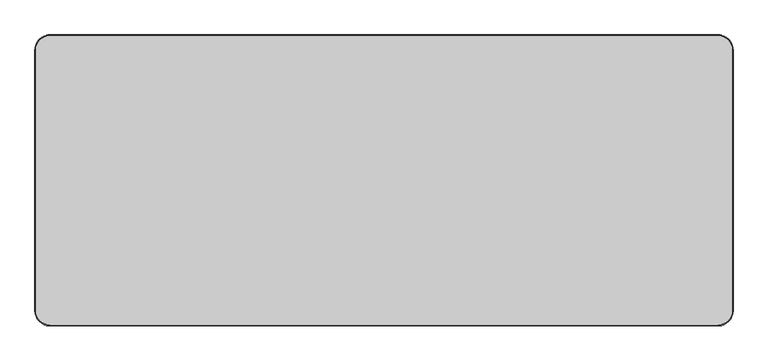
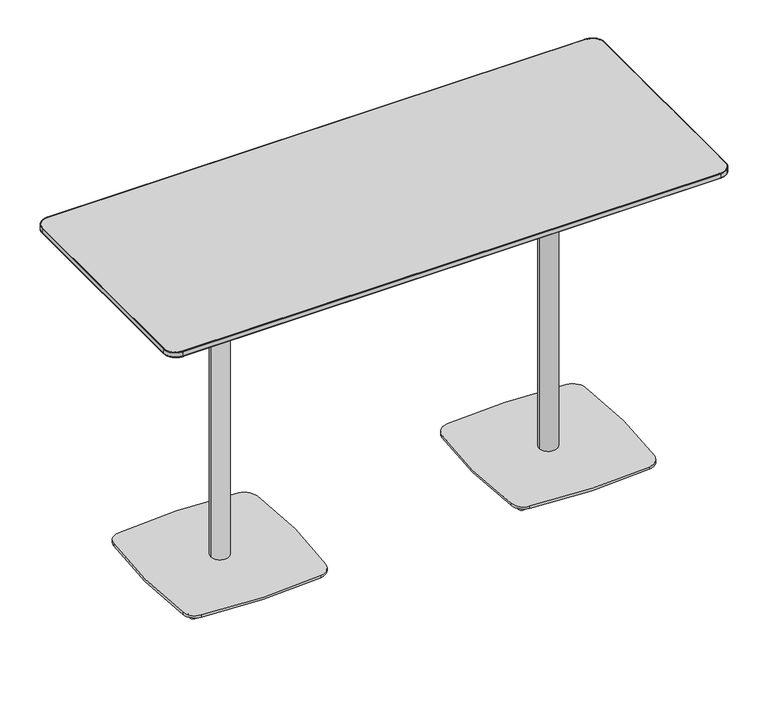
"""IFC4 building model written with IfcOpenShell, lengths in millimetres: furniture geometry, Coalesse_AM_Table_Occasional_Montara650Table_CafeHeight_Rectangular : Bar Height - 30D x 72W."""

from ifc_helpers import new_model, si_unit, point, frame, frame_2d, origin, place, context, project, spatial, polyline, circle_curve, ellipse_curve, trimmed, segment, composite_curve, outline, extrude, source, transform, mapped, element, save
from ifc_brep_helpers import plane_surface, cylinder_surface, revolved_surface, spline_surface, advanced_brep


def furniture_0e636609(model_context):
    return source(origin(), model_context, "Body", "SolidModel", [
        advanced_brep(
        [(357.2373868, 0.0, 1033.655027), (709.5626132, 0.0, 1033.655027), (665.0004101, 0.0, 1033.655027), (401.7995899, 0.0, 1033.655027), (654.4488662, 0.0, 1032.5460151), (412.3511338, 0.0, 1032.5460151), (582.1461809, 0.0, 1017.8837029), (484.6538191, 0.0, 1017.8837029), (570.812985, 0.0, 1017.8837029), (495.987015, 0.0, 1017.8837029), (503.8504172, 0.0, 1029.6852036), (562.9495828, 0.0, 1029.6852036), (562.9495828, 0.0, 19.9999965), (503.8504172, 0.0, 19.9999965), (533.4, 0.0, 19.9999965), (533.4, 0.0, 1036.830027), (709.5626132, 0.0, 1036.830027), (357.2373868, 0.0, 1036.830027), (566.7511087, 0.0, 1019.3383874), (500.0488913, 0.0, 1019.3383874), (565.112334, 0.0, 1029.6852036), (501.687666, 0.0, 1029.6852036)],
        [
            (0, 1, circle_curve(frame((533.4, 0.0, 1033.655027), z_axis=(0.0, 0.0, -1.0), x_axis=(1.0, 0.0, 0.0)), 176.1626132)),
            (1, 2),
            (2, 3, circle_curve(frame((533.4, 0.0, 1033.655027), z_axis=(0.0, 0.0, 1.0), x_axis=(1.0, 0.0, 0.0)), 131.6004101)),
            (3, 0),
            (1, 0, circle_curve(frame((533.4, 0.0, 1033.655027), z_axis=(0.0, 0.0, -1.0), x_axis=(1.0, 0.0, 0.0)), 176.1626132)),
            (3, 2, circle_curve(frame((533.4, 0.0, 1033.655027), z_axis=(0.0, 0.0, 1.0), x_axis=(1.0, 0.0, 0.0)), 131.6004101)),
            (2, 4),
            (4, 5, circle_curve(frame((533.4, 0.0, 1032.5460151), z_axis=(0.0, 0.0, 1.0), x_axis=(1.0, 0.0, 0.0)), 121.0488662)),
            (5, 3),
            (5, 4, circle_curve(frame((533.4, 0.0, 1032.5460151), z_axis=(0.0, 0.0, 1.0), x_axis=(1.0, 0.0, 0.0)), 121.0488662)),
            (4, 6),
            (6, 7, circle_curve(frame((533.4, 0.0, 1017.8837029), z_axis=(0.0, 0.0, 1.0), x_axis=(1.0, 0.0, 0.0)), 48.7461809)),
            (7, 5),
            (7, 6, circle_curve(frame((533.4, 0.0, 1017.8837029), z_axis=(0.0, 0.0, 1.0), x_axis=(1.0, 0.0, 0.0)), 48.7461809)),
            (6, 8),
            (8, 9, circle_curve(frame((533.4, 0.0, 1017.8837029), z_axis=(0.0, 0.0, 1.0), x_axis=(1.0, 0.0, 0.0)), 37.412985)),
            (9, 7),
            (9, 8, circle_curve(frame((533.4, 0.0, 1017.8837029), z_axis=(0.0, 0.0, 1.0), x_axis=(1.0, 0.0, 0.0)), 37.412985)),
            (10, 11, circle_curve(frame((533.4, 0.0, 1029.6852036), z_axis=(0.0, 0.0, -1.0), x_axis=(1.0, 0.0, 0.0)), 29.5495828)),
            (11, 12),
            (12, 13, circle_curve(frame((533.4, 0.0, 19.9999965), z_axis=(0.0, 0.0, 1.0), x_axis=(1.0, 0.0, 0.0)), 29.5495828)),
            (13, 10),
            (11, 10, circle_curve(frame((533.4, 0.0, 1029.6852036), z_axis=(0.0, 0.0, -1.0), x_axis=(1.0, 0.0, 0.0)), 29.5495828)),
            (13, 12, circle_curve(frame((533.4, 0.0, 19.9999965), z_axis=(0.0, 0.0, 1.0), x_axis=(1.0, 0.0, 0.0)), 29.5495828)),
            (12, 14),
            (14, 13),
            (15, 16),
            (16, 17, circle_curve(frame((533.4, 0.0, 1036.830027), z_axis=(0.0, 0.0, 1.0), x_axis=(1.0, 0.0, 0.0)), 176.1626132)),
            (17, 15),
            (17, 16, circle_curve(frame((533.4, 0.0, 1036.830027), z_axis=(0.0, 0.0, 1.0), x_axis=(1.0, 0.0, 0.0)), 176.1626132)),
            (16, 1),
            (0, 17),
            (8, 18),
            (18, 19, circle_curve(frame((533.4, 0.0, 1019.3383874), z_axis=(0.0, 0.0, 1.0), x_axis=(1.0, 0.0, 0.0)), 33.3511087)),
            (19, 9),
            (19, 18, circle_curve(frame((533.4, 0.0, 1019.3383874), z_axis=(0.0, 0.0, 1.0), x_axis=(1.0, 0.0, 0.0)), 33.3511087)),
            (18, 20),
            (20, 21, circle_curve(frame((533.4, 0.0, 1029.6852036), z_axis=(0.0, 0.0, 1.0), x_axis=(1.0, 0.0, 0.0)), 31.712334)),
            (21, 19),
            (21, 20, circle_curve(frame((533.4, 0.0, 1029.6852036), z_axis=(0.0, 0.0, 1.0), x_axis=(1.0, 0.0, 0.0)), 31.712334)),
            (20, 11),
            (10, 21),
        ],
        [
            plane_surface(frame((533.4, 0.0, 1033.655027), z_axis=(0.0, 0.0, -1.0), x_axis=(1.0, 0.0, 0.0))),
            revolved_surface(polyline([(654.4488662, 0.0, 1032.5460151), (665.0004101, 0.0, 1033.655027)]), (533.4, 0.0, 908.9999965), (0.0, 0.0, 1.0)),
            revolved_surface(polyline([(582.1461809, 0.0, 1017.8837029), (654.4488662, 0.0, 1032.5460151)]), (533.4, 0.0, 908.9999965), (0.0, 0.0, 1.0)),
            plane_surface(frame((533.4, 0.0, 1017.8837029), z_axis=(0.0, 0.0, -1.0), x_axis=(1.0, 0.0, 0.0))),
            cylinder_surface(frame((533.4, 0.0, 908.9999965), z_axis=(0.0, 0.0, 1.0), x_axis=(1.0, 0.0, 0.0)), 29.5495828),
            plane_surface(frame((533.4, 0.0, 19.9999965), z_axis=(0.0, 0.0, -1.0), x_axis=(1.0, 0.0, 0.0))),
            plane_surface(frame((533.4, 0.0, 1036.830027), z_axis=(0.0, 0.0, 1.0), x_axis=(1.0, 0.0, 0.0))),
            cylinder_surface(frame((533.4, 0.0, 908.9999965), z_axis=(0.0, 0.0, 1.0), x_axis=(1.0, 0.0, 0.0)), 176.1626132),
            revolved_surface(polyline([(566.7511087, 0.0, 1019.3383874), (570.812985, 0.0, 1017.8837029)]), (533.4, 0.0, 908.9999965), (0.0, 0.0, 1.0)),
            revolved_surface(polyline([(565.112334, 0.0, 1029.6852036), (566.7511087, 0.0, 1019.3383874)]), (533.4, 0.0, 908.9999965), (0.0, 0.0, 1.0)),
            plane_surface(frame((533.4, 0.0, 1029.6852036), z_axis=(0.0, 0.0, -1.0), x_axis=(1.0, 0.0, 0.0))),
        ],
        [
            (0, [[1, 2, 3, 4]]),
            (0, [[5, -4, 6, -2]]),
            (1, [[-3, 7, 8, 9]]),
            (1, [[-6, -9, 10, -7]]),
            (2, [[-8, 11, 12, 13]]),
            (2, [[-10, -13, 14, -11]]),
            (3, [[-12, 15, 16, 17]]),
            (3, [[-14, -17, 18, -15]]),
            (4, [[19, 20, 21, 22]]),
            (4, [[23, -22, 24, -20]]),
            (5, [[-21, 25, 26]]),
            (5, [[-24, -26, -25]]),
            (6, [[27, 28, 29]]),
            (6, [[-29, 30, -27]]),
            (7, [[-28, 31, -1, 32]]),
            (7, [[-30, -32, -5, -31]]),
            (8, [[-16, 33, 34, 35]]),
            (8, [[-18, -35, 36, -33]]),
            (9, [[-34, 37, 38, 39]]),
            (9, [[-36, -39, 40, -37]]),
            (10, [[-38, 41, -19, 42]]),
            (10, [[-40, -42, -23, -41]]),
        ],
    ),
        advanced_brep(
        [(749.0044343, 204.892028, 0.0), (728.3026873, 204.892028, 0.0), (753.1315608, 204.892028, 11.9999882), (724.1755608, 204.892028, 11.9999882)],
        [
            (0, 1, circle_curve(frame((738.6535608, 204.892028, 0.0), z_axis=(0.0, 0.0, -1.0), x_axis=(1.0, 0.0, 0.0)), 10.3508735)),
            (1, 0, circle_curve(frame((738.6535608, 204.892028, 0.0), z_axis=(0.0, 0.0, -1.0), x_axis=(-1.0, 0.0, 0.0)), 10.3508735)),
            (2, 3, circle_curve(frame((738.6535608, 204.892028, 11.9999882), z_axis=(0.0, 0.0, 1.0), x_axis=(-1.0, 0.0, 0.0)), 14.478)),
            (3, 2, circle_curve(frame((738.6535608, 204.892028, 11.9999882), z_axis=(0.0, 0.0, 1.0), x_axis=(1.0, 0.0, 0.0)), 14.478)),
            (3, 1),
            (0, 2),
        ],
        [
            plane_surface(frame((738.6535608, 204.892028, 0.0), z_axis=(0.0, 0.0, -1.0), x_axis=(0.0, 1.0, 0.0))),
            plane_surface(frame((738.6535608, 204.892028, 11.9999882), z_axis=(0.0, 0.0, 1.0), x_axis=(0.0, 1.0, 0.0))),
            revolved_surface(polyline([(749.0044342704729, 204.892028, 0.0), (753.1315608, 204.892028, 11.999988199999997)]), (738.6535608, 204.892028, -30.0960871), (0.0, 0.0, 1.0)),
            revolved_surface(polyline([(728.3026873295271, 204.892028, 0.0), (724.1755608, 204.892028, 11.999988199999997)]), (738.6535608, 204.892028, -30.0960871), (0.0, 0.0, 1.0)),
        ],
        [
            (0, [[1, 2]]),
            (1, [[3, 4]]),
            (2, [[-4, 5, -1, 6]]),
            (3, [[-3, -6, -2, -5]]),
        ],
    ),
        advanced_brep(
        [(749.0044343, -204.892028, 0.0), (728.3026873, -204.892028, 0.0), (753.1315608, -204.892028, 11.9999882), (724.1755608, -204.892028, 11.9999882)],
        [
            (0, 1, circle_curve(frame((738.6535608, -204.892028, 0.0), z_axis=(0.0, 0.0, -1.0), x_axis=(1.0, 0.0, 0.0)), 10.3508735)),
            (1, 0, circle_curve(frame((738.6535608, -204.892028, 0.0), z_axis=(0.0, 0.0, -1.0), x_axis=(-1.0, 0.0, 0.0)), 10.3508735)),
            (2, 3, circle_curve(frame((738.6535608, -204.892028, 11.9999882), z_axis=(0.0, 0.0, 1.0), x_axis=(-1.0, 0.0, 0.0)), 14.478)),
            (3, 2, circle_curve(frame((738.6535608, -204.892028, 11.9999882), z_axis=(0.0, 0.0, 1.0), x_axis=(1.0, 0.0, 0.0)), 14.478)),
            (2, 0),
            (1, 3),
        ],
        [
            plane_surface(frame((738.6535608, -204.892028, 0.0), z_axis=(0.0, 0.0, -1.0), x_axis=(0.0, 1.0, 0.0))),
            plane_surface(frame((738.6535608, -204.892028, 11.9999882), z_axis=(0.0, 0.0, 1.0), x_axis=(0.0, 1.0, 0.0))),
            revolved_surface(polyline([(728.3026873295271, -204.892028, 0.0), (724.1755608, -204.892028, 11.999988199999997)]), (738.6535608, -204.892028, -30.0960871), (0.0, 0.0, 1.0)),
            revolved_surface(polyline([(749.0044342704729, -204.892028, 0.0), (753.1315608, -204.892028, 11.999988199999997)]), (738.6535608, -204.892028, -30.0960871), (0.0, 0.0, 1.0)),
        ],
        [
            (0, [[1, 2]]),
            (1, [[3, 4]]),
            (2, [[-3, 5, -2, 6]]),
            (3, [[-4, -6, -1, -5]]),
        ],
    ),
        advanced_brep(
        [(317.7955657, 204.892028, 0.0), (338.4973127, 204.892028, 0.0), (313.6684392, 204.892028, 11.9999882), (342.6244392, 204.892028, 11.9999882)],
        [
            (0, 1, circle_curve(frame((328.1464392, 204.892028, 0.0), z_axis=(0.0, 0.0, -1.0), x_axis=(-1.0, 0.0, 0.0)), 10.3508735)),
            (1, 0, circle_curve(frame((328.1464392, 204.892028, 0.0), z_axis=(0.0, 0.0, -1.0), x_axis=(1.0, 0.0, 0.0)), 10.3508735)),
            (2, 3, circle_curve(frame((328.1464392, 204.892028, 11.9999882), z_axis=(0.0, 0.0, 1.0), x_axis=(1.0, 0.0, 0.0)), 14.478)),
            (3, 2, circle_curve(frame((328.1464392, 204.892028, 11.9999882), z_axis=(0.0, 0.0, 1.0), x_axis=(-1.0, 0.0, 0.0)), 14.478)),
            (2, 0),
            (1, 3),
        ],
        [
            plane_surface(frame((328.1464392, 204.892028, 0.0), z_axis=(0.0, 0.0, -1.0), x_axis=(0.0, -1.0, 0.0))),
            plane_surface(frame((328.1464392, 204.892028, 11.9999882), z_axis=(0.0, 0.0, 1.0), x_axis=(0.0, -1.0, 0.0))),
            revolved_surface(polyline([(338.49731267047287, 204.892028, 0.0), (342.6244392, 204.892028, 11.999988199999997)]), (328.1464392, 204.892028, -30.0960871), (0.0, 0.0, 1.0)),
            revolved_surface(polyline([(317.7955657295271, 204.892028, 0.0), (313.6684392, 204.892028, 11.999988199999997)]), (328.1464392, 204.892028, -30.0960871), (0.0, 0.0, 1.0)),
        ],
        [
            (0, [[1, 2]]),
            (1, [[3, 4]]),
            (2, [[-3, 5, -2, 6]]),
            (3, [[-4, -6, -1, -5]]),
        ],
    ),
        advanced_brep(
        [(317.7955657, -204.892028, 0.0), (338.4973127, -204.892028, 0.0), (313.6684392, -204.892028, 11.9999882), (342.6244392, -204.892028, 11.9999882)],
        [
            (0, 1, circle_curve(frame((328.1464392, -204.892028, 0.0), z_axis=(0.0, 0.0, -1.0), x_axis=(-1.0, 0.0, 0.0)), 10.3508735)),
            (1, 0, circle_curve(frame((328.1464392, -204.892028, 0.0), z_axis=(0.0, 0.0, -1.0), x_axis=(1.0, 0.0, 0.0)), 10.3508735)),
            (2, 3, circle_curve(frame((328.1464392, -204.892028, 11.9999882), z_axis=(0.0, 0.0, 1.0), x_axis=(1.0, 0.0, 0.0)), 14.478)),
            (3, 2, circle_curve(frame((328.1464392, -204.892028, 11.9999882), z_axis=(0.0, 0.0, 1.0), x_axis=(-1.0, 0.0, 0.0)), 14.478)),
            (3, 1),
            (0, 2),
        ],
        [
            plane_surface(frame((328.1464392, -204.892028, 0.0), z_axis=(0.0, 0.0, -1.0), x_axis=(0.0, -1.0, 0.0))),
            plane_surface(frame((328.1464392, -204.892028, 11.9999882), z_axis=(0.0, 0.0, 1.0), x_axis=(0.0, -1.0, 0.0))),
            revolved_surface(polyline([(317.7955657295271, -204.892028, 0.0), (313.6684392, -204.892028, 11.999988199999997)]), (328.1464392, -204.892028, -30.0960871), (0.0, 0.0, 1.0)),
            revolved_surface(polyline([(338.49731267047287, -204.892028, 0.0), (342.6244392, -204.892028, 11.999988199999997)]), (328.1464392, -204.892028, -30.0960871), (0.0, 0.0, 1.0)),
        ],
        [
            (0, [[1, 2]]),
            (1, [[3, 4]]),
            (2, [[-4, 5, -1, 6]]),
            (3, [[-3, -6, -2, -5]]),
        ],
    ),
        extrude(outline(composite_curve([segment(trimmed(circle_curve(frame_2d((534.6702107, -1459.4269529)), 1703.8365498), [point((338.9758413, 233.1340363))], [point((727.7022914, 233.4397294))], False, "CARTESIAN"), True, "CONTINUOUS"), segment(trimmed(circle_curve(frame_2d((722.6664351, 189.2759133)), 44.45), [point((727.7022914, 233.4397294))], [point((766.8410299, 194.2163254))], False, "CARTESIAN"), True, "CONTINUOUS"), segment(trimmed(circle_curve(frame_2d((-969.7397991, 5.89e-05)), 1747.4074894), [point((766.8410299, 194.2163254))], [point((766.838325, -194.2403925))], False, "CARTESIAN"), True, "CONTINUOUS"), segment(trimmed(circle_curve(frame_2d((722.663799, -189.2993652)), 44.45), [point((766.838325, -194.2403925))], [point((727.977927, -233.4305622))], False, "CARTESIAN"), True, "CONTINUOUS"), segment(trimmed(circle_curve(frame_2d((537.7367152, 1346.4283112)), 1591.2717488), [point((727.977927, -233.4305622))], [point((339.4996689, -232.4471911))], False, "CARTESIAN"), True, "CONTINUOUS"), segment(trimmed(circle_curve(frame_2d((345.0371496, -188.3434633)), 44.45), [point((339.4996689, -232.4471911))], [point((300.9116252, -193.704489))], False, "CARTESIAN"), True, "CONTINUOUS"), segment(trimmed(circle_curve(frame_2d((1930.9488879, 4.3367087)), 1642.0236885), [point((300.9116252, -193.704489))], [point((299.9290283, 194.115557))], False, "CARTESIAN"), True, "CONTINUOUS"), segment(trimmed(circle_curve(frame_2d((344.0811518, 188.9781952)), 44.45), [point((299.9290283, 194.115557))], [point((338.9758413, 233.1340363))], False, "CARTESIAN"), True, "CONTINUOUS")], self_intersect=False)), frame((0.0, 0.0, 11.999986), z_axis=(0.0, 0.0, 1.0), x_axis=(1.0, 0.0, 0.0)), (0.0, 0.0, 1.0), 8.0000105),
        advanced_brep(
        [(-738.6535608, 215.2429015, 0.0), (-738.6535608, 194.5411546, 0.0), (-738.6535608, 219.370028, 11.9999882), (-738.6535608, 190.414028, 11.9999882)],
        [
            (0, 1, circle_curve(frame((-738.6535608, 204.892028, 0.0), z_axis=(0.0, 0.0, -1.0), x_axis=(0.0, 1.0, 0.0)), 10.3508735)),
            (1, 0, circle_curve(frame((-738.6535608, 204.892028, 0.0), z_axis=(0.0, 0.0, -1.0), x_axis=(0.0, -1.0, 0.0)), 10.3508735)),
            (2, 3, circle_curve(frame((-738.6535608, 204.892028, 11.9999882), z_axis=(0.0, 0.0, 1.0), x_axis=(0.0, -1.0, 0.0)), 14.478)),
            (3, 2, circle_curve(frame((-738.6535608, 204.892028, 11.9999882), z_axis=(0.0, 0.0, 1.0), x_axis=(0.0, 1.0, 0.0)), 14.478)),
            (2, 0),
            (1, 3),
        ],
        [
            plane_surface(frame((-738.6535608, 204.892028, 0.0), z_axis=(0.0, 0.0, -1.0), x_axis=(-1.0, 0.0, 0.0))),
            plane_surface(frame((-738.6535608, 204.892028, 11.9999882), z_axis=(0.0, 0.0, 1.0), x_axis=(-1.0, 0.0, 0.0))),
            revolved_surface(polyline([(-738.6535608, 194.5411545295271, 0.0), (-738.6535608, 190.414028, 11.999988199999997)]), (-738.6535608, 204.892028, -30.0960871), (0.0, 0.0, 1.0)),
            revolved_surface(polyline([(-738.6535608, 215.2429014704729, 0.0), (-738.6535608, 219.370028, 11.999988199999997)]), (-738.6535608, 204.892028, -30.0960871), (0.0, 0.0, 1.0)),
        ],
        [
            (0, [[1, 2]]),
            (1, [[3, 4]]),
            (2, [[-3, 5, -2, 6]]),
            (3, [[-4, -6, -1, -5]]),
        ],
    ),
        advanced_brep(
        [(-738.6535608, -194.5411546, 0.0), (-738.6535608, -215.2429015, 0.0), (-738.6535608, -190.414028, 11.9999882), (-738.6535608, -219.370028, 11.9999882)],
        [
            (0, 1, circle_curve(frame((-738.6535608, -204.892028, 0.0), z_axis=(0.0, 0.0, -1.0), x_axis=(0.0, 1.0, 0.0)), 10.3508735)),
            (1, 0, circle_curve(frame((-738.6535608, -204.892028, 0.0), z_axis=(0.0, 0.0, -1.0), x_axis=(0.0, -1.0, 0.0)), 10.3508735)),
            (2, 3, circle_curve(frame((-738.6535608, -204.892028, 11.9999882), z_axis=(0.0, 0.0, 1.0), x_axis=(0.0, -1.0, 0.0)), 14.478)),
            (3, 2, circle_curve(frame((-738.6535608, -204.892028, 11.9999882), z_axis=(0.0, 0.0, 1.0), x_axis=(0.0, 1.0, 0.0)), 14.478)),
            (3, 1),
            (0, 2),
        ],
        [
            plane_surface(frame((-738.6535608, -204.892028, 0.0), z_axis=(0.0, 0.0, -1.0), x_axis=(-1.0, 0.0, 0.0))),
            plane_surface(frame((-738.6535608, -204.892028, 11.9999882), z_axis=(0.0, 0.0, 1.0), x_axis=(-1.0, 0.0, 0.0))),
            revolved_surface(polyline([(-738.6535608, -194.5411545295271, 0.0), (-738.6535608, -190.414028, 11.999988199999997)]), (-738.6535608, -204.892028, -30.0960871), (0.0, 0.0, 1.0)),
            revolved_surface(polyline([(-738.6535608, -215.2429014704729, 0.0), (-738.6535608, -219.370028, 11.999988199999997)]), (-738.6535608, -204.892028, -30.0960871), (0.0, 0.0, 1.0)),
        ],
        [
            (0, [[1, 2]]),
            (1, [[3, 4]]),
            (2, [[-4, 5, -1, 6]]),
            (3, [[-3, -6, -2, -5]]),
        ],
    ),
        advanced_brep(
        [(-328.1464392, 194.5411546, 0.0), (-328.1464392, 215.2429015, 0.0), (-328.1464392, 190.414028, 11.9999882), (-328.1464392, 219.370028, 11.9999882)],
        [
            (0, 1, circle_curve(frame((-328.1464392, 204.892028, 0.0), z_axis=(0.0, 0.0, -1.0), x_axis=(0.0, -1.0, 0.0)), 10.3508735)),
            (1, 0, circle_curve(frame((-328.1464392, 204.892028, 0.0), z_axis=(0.0, 0.0, -1.0), x_axis=(0.0, 1.0, 0.0)), 10.3508735)),
            (2, 3, circle_curve(frame((-328.1464392, 204.892028, 11.9999882), z_axis=(0.0, 0.0, 1.0), x_axis=(0.0, 1.0, 0.0)), 14.478)),
            (3, 2, circle_curve(frame((-328.1464392, 204.892028, 11.9999882), z_axis=(0.0, 0.0, 1.0), x_axis=(0.0, -1.0, 0.0)), 14.478)),
            (3, 1),
            (0, 2),
        ],
        [
            plane_surface(frame((-328.1464392, 204.892028, 0.0), z_axis=(0.0, 0.0, -1.0), x_axis=(1.0, 0.0, 0.0))),
            plane_surface(frame((-328.1464392, 204.892028, 11.9999882), z_axis=(0.0, 0.0, 1.0), x_axis=(1.0, 0.0, 0.0))),
            revolved_surface(polyline([(-328.1464392, 194.5411545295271, 0.0), (-328.1464392, 190.414028, 11.999988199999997)]), (-328.1464392, 204.892028, -30.0960871), (0.0, 0.0, 1.0)),
            revolved_surface(polyline([(-328.1464392, 215.2429014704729, 0.0), (-328.1464392, 219.370028, 11.999988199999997)]), (-328.1464392, 204.892028, -30.0960871), (0.0, 0.0, 1.0)),
        ],
        [
            (0, [[1, 2]]),
            (1, [[3, 4]]),
            (2, [[-4, 5, -1, 6]]),
            (3, [[-3, -6, -2, -5]]),
        ],
    ),
        advanced_brep(
        [(-328.1464392, -215.2429015, 0.0), (-328.1464392, -194.5411546, 0.0), (-328.1464392, -219.370028, 11.9999882), (-328.1464392, -190.414028, 11.9999882)],
        [
            (0, 1, circle_curve(frame((-328.1464392, -204.892028, 0.0), z_axis=(0.0, 0.0, -1.0), x_axis=(0.0, -1.0, 0.0)), 10.3508735)),
            (1, 0, circle_curve(frame((-328.1464392, -204.892028, 0.0), z_axis=(0.0, 0.0, -1.0), x_axis=(0.0, 1.0, 0.0)), 10.3508735)),
            (2, 3, circle_curve(frame((-328.1464392, -204.892028, 11.9999882), z_axis=(0.0, 0.0, 1.0), x_axis=(0.0, 1.0, 0.0)), 14.478)),
            (3, 2, circle_curve(frame((-328.1464392, -204.892028, 11.9999882), z_axis=(0.0, 0.0, 1.0), x_axis=(0.0, -1.0, 0.0)), 14.478)),
            (2, 0),
            (1, 3),
        ],
        [
            plane_surface(frame((-328.1464392, -204.892028, 0.0), z_axis=(0.0, 0.0, -1.0), x_axis=(1.0, 0.0, 0.0))),
            plane_surface(frame((-328.1464392, -204.892028, 11.9999882), z_axis=(0.0, 0.0, 1.0), x_axis=(1.0, 0.0, 0.0))),
            revolved_surface(polyline([(-328.1464392, -194.5411545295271, 0.0), (-328.1464392, -190.414028, 11.999988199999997)]), (-328.1464392, -204.892028, -30.0960871), (0.0, 0.0, 1.0)),
            revolved_surface(polyline([(-328.1464392, -215.2429014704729, 0.0), (-328.1464392, -219.370028, 11.999988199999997)]), (-328.1464392, -204.892028, -30.0960871), (0.0, 0.0, 1.0)),
        ],
        [
            (0, [[1, 2]]),
            (1, [[3, 4]]),
            (2, [[-3, 5, -2, 6]]),
            (3, [[-4, -6, -1, -5]]),
        ],
    ),
        extrude(outline(composite_curve([segment(trimmed(circle_curve(frame_2d((-344.0811518, 188.9781952)), 44.45), [point((-338.9758413, 233.1340363))], [point((-299.9290283, 194.115557))], False, "CARTESIAN"), True, "CONTINUOUS"), segment(trimmed(circle_curve(frame_2d((-1930.9488879, 4.3367087)), 1642.0236885), [point((-299.9290283, 194.115557))], [point((-300.9116252, -193.704489))], False, "CARTESIAN"), True, "CONTINUOUS"), segment(trimmed(circle_curve(frame_2d((-345.0371496, -188.3434633)), 44.45), [point((-300.9116252, -193.704489))], [point((-339.4996689, -232.4471911))], False, "CARTESIAN"), True, "CONTINUOUS"), segment(trimmed(circle_curve(frame_2d((-537.7367152, 1346.4283112)), 1591.2717488), [point((-339.4996689, -232.4471911))], [point((-727.977927, -233.4305622))], False, "CARTESIAN"), True, "CONTINUOUS"), segment(trimmed(circle_curve(frame_2d((-722.663799, -189.2993652)), 44.45), [point((-727.977927, -233.4305622))], [point((-766.838325, -194.2403925))], False, "CARTESIAN"), True, "CONTINUOUS"), segment(trimmed(circle_curve(frame_2d((969.7397991, 5.89e-05)), 1747.4074894), [point((-766.838325, -194.2403925))], [point((-766.8410299, 194.2163254))], False, "CARTESIAN"), True, "CONTINUOUS"), segment(trimmed(circle_curve(frame_2d((-722.6664351, 189.2759133)), 44.45), [point((-766.8410299, 194.2163254))], [point((-727.7022914, 233.4397294))], False, "CARTESIAN"), True, "CONTINUOUS"), segment(trimmed(circle_curve(frame_2d((-534.6702107, -1459.4269529)), 1703.8365498), [point((-727.7022914, 233.4397294))], [point((-338.9758413, 233.1340363))], False, "CARTESIAN"), True, "CONTINUOUS")], self_intersect=False)), frame((0.0, 0.0, 11.999986), z_axis=(0.0, 0.0, 1.0), x_axis=(1.0, 0.0, 0.0)), (0.0, 0.0, 1.0), 8.0000105),
        advanced_brep(
        [(849.4626362, 316.0635082, 1036.830027), (849.4626362, -316.0635082, 1036.830027), (-849.4626362, -316.0635082, 1036.830027), (-849.4626362, 316.0635082, 1036.830027), (874.188625, 378.968, 1049.095891), (-874.188625, 378.968, 1049.095891), (-912.288625, 340.868, 1049.095891), (-912.288625, -340.868, 1049.095891), (-874.188625, -378.968, 1049.095891), (874.188625, -378.968, 1049.095891), (912.288625, -340.868, 1049.095891), (912.288625, 340.868, 1049.095891)],
        [
            (0, 1),
            (1, 2),
            (2, 3),
            (3, 0),
            (4, 5),
            (5, 6, circle_curve(frame((-874.188625, 340.868, 1049.095891), z_axis=(0.0, 0.0, 1.0), x_axis=(1.0, 0.0, 0.0)), 38.1)),
            (6, 7),
            (7, 8, circle_curve(frame((-874.188625, -340.868, 1049.095891), z_axis=(0.0, 0.0, 1.0), x_axis=(1.0, 0.0, 0.0)), 38.1)),
            (8, 9),
            (9, 10, circle_curve(frame((874.188625, -340.868, 1049.095891), z_axis=(0.0, 0.0, 1.0), x_axis=(1.0, 0.0, 0.0)), 38.1)),
            (10, 11),
            (11, 4, circle_curve(frame((874.188625, 340.868, 1049.095891), z_axis=(0.0, 0.0, 1.0), x_axis=(1.0, 0.0, 0.0)), 38.1)),
            (11, 0),
            (0, 4),
            (10, 1),
            (9, 1),
            (8, 2),
            (7, 2),
            (6, 3),
            (5, 3),
        ],
        [
            plane_surface(frame((0.0, 0.0, 1036.830027), z_axis=(0.0, 0.0, -1.0), x_axis=(-1.0, 0.0, 0.0))),
            plane_surface(frame((0.0, 0.0, 1049.095891), z_axis=(0.0, 0.0, 1.0), x_axis=(-1.0, 0.0, 0.0))),
            spline_surface(2, 1, [[(874.188625, 378.968, 1049.095891), (849.4626362, 316.0635082, 1036.830027)], [(912.288625, 378.968, 1049.095891), (849.4626362, 316.0635082, 1036.830027)], [(912.288625, 340.868, 1049.095891), (849.4626362, 316.0635082, 1036.830027)]], [3, 3], [2, 2], [0.0, 1.0], [0.0, 1.0], weights=[[1.0, 1.0], [0.7071067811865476, 0.7071067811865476], [1.0, 1.0]]),
            plane_surface(frame((912.288625, 0.0, 1049.095891), z_axis=(0.19161772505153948, 0.0, -0.9814696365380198), x_axis=(0.0, -1.0, 0.0))),
            spline_surface(2, 1, [[(912.288625, -340.868, 1049.095891), (849.4626362, -316.0635082, 1036.830027)], [(912.288625, -378.968, 1049.095891), (849.4626362, -316.0635082, 1036.830027)], [(874.188625, -378.968, 1049.095891), (849.4626362, -316.0635082, 1036.830027)]], [3, 3], [2, 2], [0.0, 1.0], [0.0, 1.0], weights=[[1.0, 1.0], [0.7071067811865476, 0.7071067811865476], [1.0, 1.0]]),
            plane_surface(frame((0.0, -378.968, 1049.095891), z_axis=(0.0, -0.1913873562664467, -0.9815145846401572), x_axis=(-1.0, 0.0, 0.0))),
            spline_surface(2, 1, [[(-874.188625, -378.968, 1049.095891), (-849.4626362, -316.0635082, 1036.830027)], [(-912.288625, -378.968, 1049.095891), (-849.4626362, -316.0635082, 1036.830027)], [(-912.288625, -340.868, 1049.095891), (-849.4626362, -316.0635082, 1036.830027)]], [3, 3], [2, 2], [0.0, 1.0], [0.0, 1.0], weights=[[1.0, 1.0], [0.7071067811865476, 0.7071067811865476], [1.0, 1.0]]),
            plane_surface(frame((-912.288625, 0.0, 1049.095891), z_axis=(-0.19161772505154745, 0.0, -0.9814696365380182), x_axis=(0.0, 1.0, 0.0))),
            spline_surface(2, 1, [[(-912.288625, 340.868, 1049.095891), (-849.4626362, 316.0635082, 1036.830027)], [(-912.288625, 378.968, 1049.095891), (-849.4626362, 316.0635082, 1036.830027)], [(-874.188625, 378.968, 1049.095891), (-849.4626362, 316.0635082, 1036.830027)]], [3, 3], [2, 2], [0.0, 1.0], [0.0, 1.0], weights=[[1.0, 1.0], [0.7071067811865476, 0.7071067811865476], [1.0, 1.0]]),
            plane_surface(frame((0.0, 378.968, 1049.095891), z_axis=(0.0, 0.19138735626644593, -0.9815145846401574), x_axis=(1.0, 0.0, 0.0))),
        ],
        [
            (0, [[1, 2, 3, 4]]),
            (1, [[5, 6, 7, 8, 9, 10, 11, 12]]),
            (2, [[-12, 13, 14]]),
            (3, [[-11, 15, -1, -13]]),
            (4, [[-10, 16, -15]]),
            (5, [[-9, 17, -2, -16]]),
            (6, [[-8, 18, -17]]),
            (7, [[-7, 19, -3, -18]]),
            (8, [[-6, 20, -19]]),
            (9, [[-5, -14, -4, -20]]),
        ],
    ),
        extrude(outline(composite_curve([segment(trimmed(circle_curve(frame_2d((874.188625, 340.868)), 38.1), [point((874.188625, 378.968))], [point((912.288625, 340.868))], False, "CARTESIAN"), True, "CONTINUOUS"), segment(polyline([(912.288625, 340.868), (912.288625, -340.868)]), True, "CONTINUOUS"), segment(trimmed(circle_curve(frame_2d((874.188625, -340.868)), 38.1), [point((912.288625, -340.868))], [point((874.188625, -378.968))], False, "CARTESIAN"), True, "CONTINUOUS"), segment(polyline([(874.188625, -378.968), (-874.188625, -378.968)]), True, "CONTINUOUS"), segment(trimmed(circle_curve(frame_2d((-874.188625, -340.868)), 38.1), [point((-874.188625, -378.968))], [point((-912.288625, -340.868))], False, "CARTESIAN"), True, "CONTINUOUS"), segment(polyline([(-912.288625, -340.868), (-912.288625, 340.868)]), True, "CONTINUOUS"), segment(trimmed(circle_curve(frame_2d((-874.188625, 340.868)), 38.1), [point((-912.288625, 340.868))], [point((-874.188625, 378.968))], False, "CARTESIAN"), True, "CONTINUOUS"), segment(polyline([(-874.188625, 378.968), (874.188625, 378.968)]), True, "CONTINUOUS")], self_intersect=False)), frame((0.0, 0.0, 1049.095891), z_axis=(0.0, 0.0, 1.0), x_axis=(1.0, 0.0, 0.0)), (0.0, 0.0, 1.0), 17.704109),
        advanced_brep(
        [(-914.3644915, 340.868, 1051.0278467), (-874.188625, 381.0438665, 1051.0278467), (-874.188625, 378.968, 1049.095891), (-912.288625, 340.868, 1049.095891), (-914.3644915, 340.868, 1064.7999283), (-874.188625, 381.0438665, 1064.7999283), (-912.288625, 340.868, 1066.8), (-874.188625, 378.968, 1066.8), (-912.288625, -340.868, 1049.095891), (-914.3644915, -340.868, 1051.0278467), (-914.3644915, -340.868, 1064.7999283), (-912.288625, -340.868, 1066.8), (-874.188625, -381.0438665, 1051.0278467), (-874.188625, -378.968, 1049.095891), (-874.188625, -381.0438665, 1064.7999283), (-874.188625, -378.968, 1066.8), (874.188625, -378.968, 1049.095891), (874.188625, -381.0438665, 1051.0278467), (874.188625, -381.0438665, 1064.7999283), (874.188625, -378.968, 1066.8), (914.3644915, -340.868, 1051.0278467), (912.288625, -340.868, 1049.095891), (914.3644915, -340.868, 1064.7999283), (912.288625, -340.868, 1066.8), (912.288625, 340.868, 1049.095891), (914.3644915, 340.868, 1051.0278467), (914.3644915, 340.868, 1064.7999283), (912.288625, 340.868, 1066.8), (874.188625, 381.0438665, 1051.0278467), (874.188625, 378.968, 1049.095891), (874.188625, 381.0438665, 1064.7999283), (874.188625, 378.968, 1066.8)],
        [
            (0, 1, circle_curve(frame((-874.188625, 340.868, 1051.0278467), z_axis=(0.0, 0.0, -1.0), x_axis=(0.0, 1.0, 0.0)), 40.1758665)),
            (1, 2, circle_curve(frame((-874.188625, 379.1069224, 1051.0278467), z_axis=(-1.0, 0.0, 0.0), x_axis=(0.0, -1.0, 0.0)), 1.9369441)),
            (2, 3, circle_curve(frame((-874.188625, 340.868, 1049.095891), z_axis=(0.0, 0.0, 1.0), x_axis=(0.0, 1.0, 0.0)), 38.1)),
            (3, 0, circle_curve(frame((-912.4275474, 340.868, 1051.0278467), z_axis=(0.0, 1.0, 0.0), x_axis=(1.0, 0.0, 0.0)), 1.9369441)),
            (4, 5, circle_curve(frame((-874.188625, 340.868, 1064.7999283), z_axis=(0.0, 0.0, -1.0), x_axis=(0.0, 1.0, 0.0)), 40.1758665)),
            (5, 1),
            (0, 4),
            (6, 7, circle_curve(frame((-874.188625, 340.868, 1066.8), z_axis=(0.0, 0.0, -1.0), x_axis=(0.0, 1.0, 0.0)), 38.1)),
            (7, 5, circle_curve(frame((-874.188625, 379.0424111, 1064.7999283), z_axis=(-1.0, 0.0, 0.0), x_axis=(0.0, -1.0, 0.0)), 2.0014554)),
            (4, 6, circle_curve(frame((-912.3630361, 340.868, 1064.7999283), z_axis=(0.0, 1.0, 0.0), x_axis=(1.0, 0.0, 0.0)), 2.0014554)),
            (2, 7),
            (6, 3),
            (3, 8),
            (8, 9, circle_curve(frame((-912.4275474, -340.868, 1051.0278467), z_axis=(0.0, 1.0, 0.0), x_axis=(1.0, 0.0, 0.0)), 1.9369441)),
            (9, 0),
            (9, 10),
            (10, 4),
            (10, 11, circle_curve(frame((-912.3630361, -340.868, 1064.7999283), z_axis=(0.0, 1.0, 0.0), x_axis=(1.0, 0.0, 0.0)), 2.0014554)),
            (11, 6),
            (11, 8),
            (12, 9, circle_curve(frame((-874.188625, -340.868, 1051.0278467), z_axis=(0.0, 0.0, -1.0), x_axis=(-1.0, 0.0, 0.0)), 40.1758665)),
            (8, 13, circle_curve(frame((-874.188625, -340.868, 1049.095891), z_axis=(0.0, 0.0, 1.0), x_axis=(-1.0, 0.0, 0.0)), 38.1)),
            (13, 12, circle_curve(frame((-874.188625, -379.1069224, 1051.0278467), z_axis=(-1.0, 0.0, 0.0), x_axis=(0.0, 1.0, 0.0)), 1.9369441)),
            (14, 10, circle_curve(frame((-874.188625, -340.868, 1064.7999283), z_axis=(0.0, 0.0, -1.0), x_axis=(-1.0, 0.0, 0.0)), 40.1758665)),
            (12, 14),
            (15, 11, circle_curve(frame((-874.188625, -340.868, 1066.8), z_axis=(0.0, 0.0, -1.0), x_axis=(-1.0, 0.0, 0.0)), 38.1)),
            (14, 15, circle_curve(frame((-874.188625, -379.0424111, 1064.7999283), z_axis=(-1.0, 0.0, 0.0), x_axis=(0.0, 1.0, 0.0)), 2.0014554)),
            (15, 13),
            (13, 16),
            (16, 17, circle_curve(frame((874.188625, -379.1069224, 1051.0278467), z_axis=(-1.0, 0.0, 0.0), x_axis=(0.0, 1.0, 0.0)), 1.9369441)),
            (17, 12),
            (17, 18),
            (18, 14),
            (18, 19, circle_curve(frame((874.188625, -379.0424111, 1064.7999283), z_axis=(-1.0, 0.0, 0.0), x_axis=(0.0, 1.0, 0.0)), 2.0014554)),
            (19, 15),
            (19, 16),
            (20, 17, circle_curve(frame((874.188625, -340.868, 1051.0278467), z_axis=(0.0, 0.0, -1.0), x_axis=(0.0, -1.0, 0.0)), 40.1758665)),
            (16, 21, circle_curve(frame((874.188625, -340.868, 1049.095891), z_axis=(0.0, 0.0, 1.0), x_axis=(0.0, -1.0, 0.0)), 38.1)),
            (21, 20, circle_curve(frame((912.4275474, -340.868, 1051.0278467), z_axis=(0.0, -1.0, 0.0), x_axis=(-1.0, 0.0, 0.0)), 1.9369441)),
            (22, 18, circle_curve(frame((874.188625, -340.868, 1064.7999283), z_axis=(0.0, 0.0, -1.0), x_axis=(0.0, -1.0, 0.0)), 40.1758665)),
            (20, 22),
            (23, 19, circle_curve(frame((874.188625, -340.868, 1066.8), z_axis=(0.0, 0.0, -1.0), x_axis=(0.0, -1.0, 0.0)), 38.1)),
            (22, 23, circle_curve(frame((912.3630361, -340.868, 1064.7999283), z_axis=(0.0, -1.0, 0.0), x_axis=(-1.0, 0.0, 0.0)), 2.0014554)),
            (23, 21),
            (21, 24),
            (24, 25, circle_curve(frame((912.4275474, 340.868, 1051.0278467), z_axis=(0.0, -1.0, 0.0), x_axis=(-1.0, 0.0, 0.0)), 1.9369441)),
            (25, 20),
            (25, 26),
            (26, 22),
            (26, 27, circle_curve(frame((912.3630361, 340.868, 1064.7999283), z_axis=(0.0, -1.0, 0.0), x_axis=(-1.0, 0.0, 0.0)), 2.0014554)),
            (27, 23),
            (27, 24),
            (28, 25, circle_curve(frame((874.188625, 340.868, 1051.0278467), z_axis=(0.0, 0.0, -1.0), x_axis=(1.0, 0.0, 0.0)), 40.1758665)),
            (24, 29, circle_curve(frame((874.188625, 340.868, 1049.095891), z_axis=(0.0, 0.0, 1.0), x_axis=(1.0, 0.0, 0.0)), 38.1)),
            (29, 28, circle_curve(frame((874.188625, 379.1069224, 1051.0278467), z_axis=(1.0, 0.0, 0.0), x_axis=(0.0, -1.0, 0.0)), 1.9369441)),
            (30, 26, circle_curve(frame((874.188625, 340.868, 1064.7999283), z_axis=(0.0, 0.0, -1.0), x_axis=(1.0, 0.0, 0.0)), 40.1758665)),
            (28, 30),
            (31, 27, circle_curve(frame((874.188625, 340.868, 1066.8), z_axis=(0.0, 0.0, -1.0), x_axis=(1.0, 0.0, 0.0)), 38.1)),
            (30, 31, circle_curve(frame((874.188625, 379.0424111, 1064.7999283), z_axis=(1.0, 0.0, 0.0), x_axis=(0.0, -1.0, 0.0)), 2.0014554)),
            (31, 29),
            (29, 2),
            (1, 28),
            (5, 30),
            (7, 31),
        ],
        [
            revolved_surface(trimmed(ellipse_curve(frame((-874.188625, 379.1069224, 1051.0278467), z_axis=(1.0, 0.0, 0.0), x_axis=(0.0, -1.0, 0.0)), 1.9369441, 1.9369441), [point((-874.188625, 378.968, 1049.095891))], [point((-874.188625, 381.0438665, 1051.0278467))], True, "CARTESIAN"), (-874.188625, 340.868, 0.0), (0.0, 0.0, 1.0)),
            cylinder_surface(frame((-874.188625, 340.868, 0.0), z_axis=(0.0, 0.0, 1.0), x_axis=(0.0, 1.0, 0.0)), 40.1758665),
            revolved_surface(trimmed(ellipse_curve(frame((-874.188625, 379.0424111, 1064.7999283), z_axis=(1.0, 0.0, 0.0), x_axis=(0.0, -1.0, 0.0)), 2.0014554, 2.0014554), [point((-874.188625, 381.0438665, 1064.7999283))], [point((-874.188625, 378.968, 1066.8))], True, "CARTESIAN"), (-874.188625, 340.868, 0.0), (0.0, 0.0, 1.0)),
            revolved_surface(polyline([(-874.188625, 378.968, 1066.8), (-874.188625, 378.968, 1049.095891)]), (-874.188625, 340.868, 0.0), (0.0, 0.0, 1.0)),
            cylinder_surface(frame((-912.4275474, 340.868, 1051.0278467), z_axis=(0.0, 1.0, 0.0), x_axis=(1.0, 0.0, 0.0)), 1.9369441),
            plane_surface(frame((-914.3644915, 340.868, 1051.0278467), z_axis=(-1.0, 0.0, 0.0), x_axis=(0.0, -1.0, 0.0))),
            cylinder_surface(frame((-912.3630361, 340.868, 1064.7999283), z_axis=(0.0, 1.0, 0.0), x_axis=(1.0, 0.0, 0.0)), 2.0014554),
            plane_surface(frame((-912.288625, 340.868, 1066.8), z_axis=(1.0, 0.0, 0.0), x_axis=(0.0, -1.0, 0.0))),
            revolved_surface(trimmed(ellipse_curve(frame((-912.4275474, -340.868, 1051.0278467), z_axis=(0.0, 1.0, 0.0), x_axis=(1.0, 0.0, 0.0)), 1.9369441, 1.9369441), [point((-912.288625, -340.868, 1049.095891))], [point((-914.3644915, -340.868, 1051.0278467))], True, "CARTESIAN"), (-874.188625, -340.868, 0.0), (0.0, 0.0, 1.0)),
            cylinder_surface(frame((-874.188625, -340.868, 0.0), z_axis=(0.0, 0.0, 1.0), x_axis=(-1.0, 0.0, 0.0)), 40.1758665),
            revolved_surface(trimmed(ellipse_curve(frame((-912.3630361, -340.868, 1064.7999283), z_axis=(0.0, 1.0, 0.0), x_axis=(1.0, 0.0, 0.0)), 2.0014554, 2.0014554), [point((-914.3644915, -340.868, 1064.7999283))], [point((-912.288625, -340.868, 1066.8))], True, "CARTESIAN"), (-874.188625, -340.868, 0.0), (0.0, 0.0, 1.0)),
            revolved_surface(polyline([(-912.288625, -340.868, 1066.8), (-912.288625, -340.868, 1049.095891)]), (-874.188625, -340.868, 0.0), (0.0, 0.0, 1.0)),
            cylinder_surface(frame((-874.188625, -379.1069224, 1051.0278467), z_axis=(-1.0, 0.0, 0.0), x_axis=(0.0, 1.0, 0.0)), 1.9369441),
            plane_surface(frame((-874.188625, -381.0438665, 1051.0278467), z_axis=(0.0, -1.0, 0.0), x_axis=(1.0, 0.0, 0.0))),
            cylinder_surface(frame((-874.188625, -379.0424111, 1064.7999283), z_axis=(-1.0, 0.0, 0.0), x_axis=(0.0, 1.0, 0.0)), 2.0014554),
            plane_surface(frame((-874.188625, -378.968, 1066.8), z_axis=(0.0, 1.0, 0.0), x_axis=(1.0, 0.0, 0.0))),
            revolved_surface(trimmed(ellipse_curve(frame((874.188625, -379.1069224, 1051.0278467), z_axis=(-1.0, 0.0, 0.0), x_axis=(0.0, 1.0, 0.0)), 1.9369441, 1.9369441), [point((874.188625, -378.968, 1049.095891))], [point((874.188625, -381.0438665, 1051.0278467))], True, "CARTESIAN"), (874.188625, -340.868, 0.0), (0.0, 0.0, 1.0)),
            cylinder_surface(frame((874.188625, -340.868, 0.0), z_axis=(0.0, 0.0, 1.0), x_axis=(0.0, -1.0, 0.0)), 40.1758665),
            revolved_surface(trimmed(ellipse_curve(frame((874.188625, -379.0424111, 1064.7999283), z_axis=(-1.0, 0.0, 0.0), x_axis=(0.0, 1.0, 0.0)), 2.0014554, 2.0014554), [point((874.188625, -381.0438665, 1064.7999283))], [point((874.188625, -378.968, 1066.8))], True, "CARTESIAN"), (874.188625, -340.868, 0.0), (0.0, 0.0, 1.0)),
            revolved_surface(polyline([(874.188625, -378.968, 1066.8), (874.188625, -378.968, 1049.095891)]), (874.188625, -340.868, 0.0), (0.0, 0.0, 1.0)),
            cylinder_surface(frame((912.4275474, -340.868, 1051.0278467), z_axis=(0.0, -1.0, 0.0), x_axis=(-1.0, 0.0, 0.0)), 1.9369441),
            plane_surface(frame((914.3644915, -340.868, 1051.0278467), z_axis=(1.0, 0.0, 0.0), x_axis=(0.0, 1.0, 0.0))),
            cylinder_surface(frame((912.3630361, -340.868, 1064.7999283), z_axis=(0.0, -1.0, 0.0), x_axis=(-1.0, 0.0, 0.0)), 2.0014554),
            plane_surface(frame((912.288625, -340.868, 1066.8), z_axis=(-1.0, 0.0, 0.0), x_axis=(0.0, 1.0, 0.0))),
            revolved_surface(trimmed(ellipse_curve(frame((912.4275474, 340.868, 1051.0278467), z_axis=(0.0, -1.0, 0.0), x_axis=(-1.0, 0.0, 0.0)), 1.9369441, 1.9369441), [point((912.288625, 340.868, 1049.095891))], [point((914.3644915, 340.868, 1051.0278467))], True, "CARTESIAN"), (874.188625, 340.868, 0.0), (0.0, 0.0, 1.0)),
            cylinder_surface(frame((874.188625, 340.868, 0.0), z_axis=(0.0, 0.0, 1.0), x_axis=(1.0, 0.0, 0.0)), 40.1758665),
            revolved_surface(trimmed(ellipse_curve(frame((912.3630361, 340.868, 1064.7999283), z_axis=(0.0, -1.0, 0.0), x_axis=(-1.0, 0.0, 0.0)), 2.0014554, 2.0014554), [point((914.3644915, 340.868, 1064.7999283))], [point((912.288625, 340.868, 1066.8))], True, "CARTESIAN"), (874.188625, 340.868, 0.0), (0.0, 0.0, 1.0)),
            revolved_surface(polyline([(912.288625, 340.868, 1066.8), (912.288625, 340.868, 1049.095891)]), (874.188625, 340.868, 0.0), (0.0, 0.0, 1.0)),
            cylinder_surface(frame((874.188625, 379.1069224, 1051.0278467), z_axis=(1.0, 0.0, 0.0), x_axis=(0.0, -1.0, 0.0)), 1.9369441),
            plane_surface(frame((874.188625, 381.0438665, 1051.0278467), z_axis=(0.0, 1.0, 0.0), x_axis=(-1.0, 0.0, 0.0))),
            cylinder_surface(frame((874.188625, 379.0424111, 1064.7999283), z_axis=(1.0, 0.0, 0.0), x_axis=(0.0, -1.0, 0.0)), 2.0014554),
            plane_surface(frame((874.188625, 378.968, 1066.8), z_axis=(0.0, -1.0, 0.0), x_axis=(-1.0, 0.0, 0.0))),
        ],
        [
            (0, [[1, 2, 3, 4]]),
            (1, [[5, 6, -1, 7]]),
            (2, [[8, 9, -5, 10]]),
            (3, [[-3, 11, -8, 12]]),
            (4, [[-4, 13, 14, 15]]),
            (5, [[-7, -15, 16, 17]]),
            (6, [[-10, -17, 18, 19]]),
            (7, [[-12, -19, 20, -13]]),
            (8, [[21, -14, 22, 23]]),
            (9, [[24, -16, -21, 25]]),
            (10, [[26, -18, -24, 27]]),
            (11, [[-22, -20, -26, 28]]),
            (12, [[-23, 29, 30, 31]]),
            (13, [[-25, -31, 32, 33]]),
            (14, [[-27, -33, 34, 35]]),
            (15, [[-28, -35, 36, -29]]),
            (16, [[37, -30, 38, 39]]),
            (17, [[40, -32, -37, 41]]),
            (18, [[42, -34, -40, 43]]),
            (19, [[-38, -36, -42, 44]]),
            (20, [[-39, 45, 46, 47]]),
            (21, [[-41, -47, 48, 49]]),
            (22, [[-43, -49, 50, 51]]),
            (23, [[-44, -51, 52, -45]]),
            (24, [[53, -46, 54, 55]]),
            (25, [[56, -48, -53, 57]]),
            (26, [[58, -50, -56, 59]]),
            (27, [[-54, -52, -58, 60]]),
            (28, [[-55, 61, -2, 62]]),
            (29, [[-57, -62, -6, 63]]),
            (30, [[-59, -63, -9, 64]]),
            (31, [[-60, -64, -11, -61]]),
        ],
    ),
        advanced_brep(
        [(-401.7995899, 0.0, 1033.655027), (-665.0004101, 0.0, 1033.655027), (-709.5626132, 0.0, 1033.655027), (-357.2373868, 0.0, 1033.655027), (-412.3511338, 0.0, 1032.5460151), (-654.4488662, 0.0, 1032.5460151), (-484.6538191, 0.0, 1017.8837029), (-582.1461809, 0.0, 1017.8837029), (-495.987015, 0.0, 1017.8837029), (-570.812985, 0.0, 1017.8837029), (-503.8504172, 0.0, 19.9999965), (-562.9495828, 0.0, 19.9999965), (-562.9495828, 0.0, 1029.6852036), (-503.8504172, 0.0, 1029.6852036), (-533.4, 0.0, 19.9999965), (-357.2373868, 0.0, 1036.830027), (-709.5626132, 0.0, 1036.830027), (-533.4, 0.0, 1036.830027), (-500.0488913, 0.0, 1019.3383874), (-566.7511087, 0.0, 1019.3383874), (-501.687666, 0.0, 1029.6852036), (-565.112334, 0.0, 1029.6852036)],
        [
            (0, 1, circle_curve(frame((-533.4, 0.0, 1033.655027), z_axis=(0.0, 0.0, 1.0), x_axis=(-1.0, 0.0, 0.0)), 131.6004101)),
            (1, 2),
            (2, 3, circle_curve(frame((-533.4, 0.0, 1033.655027), z_axis=(0.0, 0.0, -1.0), x_axis=(-1.0, 0.0, 0.0)), 176.1626132)),
            (3, 0),
            (1, 0, circle_curve(frame((-533.4, 0.0, 1033.655027), z_axis=(0.0, 0.0, 1.0), x_axis=(-1.0, 0.0, 0.0)), 131.6004101)),
            (3, 2, circle_curve(frame((-533.4, 0.0, 1033.655027), z_axis=(0.0, 0.0, -1.0), x_axis=(-1.0, 0.0, 0.0)), 176.1626132)),
            (4, 5, circle_curve(frame((-533.4, 0.0, 1032.5460151), z_axis=(0.0, 0.0, 1.0), x_axis=(-1.0, 0.0, 0.0)), 121.0488662)),
            (5, 1),
            (0, 4),
            (5, 4, circle_curve(frame((-533.4, 0.0, 1032.5460151), z_axis=(0.0, 0.0, 1.0), x_axis=(-1.0, 0.0, 0.0)), 121.0488662)),
            (6, 7, circle_curve(frame((-533.4, 0.0, 1017.8837029), z_axis=(0.0, 0.0, 1.0), x_axis=(-1.0, 0.0, 0.0)), 48.7461809)),
            (7, 5),
            (4, 6),
            (7, 6, circle_curve(frame((-533.4, 0.0, 1017.8837029), z_axis=(0.0, 0.0, 1.0), x_axis=(-1.0, 0.0, 0.0)), 48.7461809)),
            (8, 9, circle_curve(frame((-533.4, 0.0, 1017.8837029), z_axis=(0.0, 0.0, 1.0), x_axis=(-1.0, 0.0, 0.0)), 37.412985)),
            (9, 7),
            (6, 8),
            (9, 8, circle_curve(frame((-533.4, 0.0, 1017.8837029), z_axis=(0.0, 0.0, 1.0), x_axis=(-1.0, 0.0, 0.0)), 37.412985)),
            (10, 11, circle_curve(frame((-533.4, 0.0, 19.9999965), z_axis=(0.0, 0.0, 1.0), x_axis=(-1.0, 0.0, 0.0)), 29.5495828)),
            (11, 12),
            (12, 13, circle_curve(frame((-533.4, 0.0, 1029.6852036), z_axis=(0.0, 0.0, -1.0), x_axis=(-1.0, 0.0, 0.0)), 29.5495828)),
            (13, 10),
            (11, 10, circle_curve(frame((-533.4, 0.0, 19.9999965), z_axis=(0.0, 0.0, 1.0), x_axis=(-1.0, 0.0, 0.0)), 29.5495828)),
            (13, 12, circle_curve(frame((-533.4, 0.0, 1029.6852036), z_axis=(0.0, 0.0, -1.0), x_axis=(-1.0, 0.0, 0.0)), 29.5495828)),
            (14, 11),
            (10, 14),
            (15, 16, circle_curve(frame((-533.4, 0.0, 1036.830027), z_axis=(0.0, 0.0, 1.0), x_axis=(-1.0, 0.0, 0.0)), 176.1626132)),
            (16, 17),
            (17, 15),
            (16, 15, circle_curve(frame((-533.4, 0.0, 1036.830027), z_axis=(0.0, 0.0, 1.0), x_axis=(-1.0, 0.0, 0.0)), 176.1626132)),
            (2, 16),
            (15, 3),
            (18, 19, circle_curve(frame((-533.4, 0.0, 1019.3383874), z_axis=(0.0, 0.0, 1.0), x_axis=(-1.0, 0.0, 0.0)), 33.3511087)),
            (19, 9),
            (8, 18),
            (19, 18, circle_curve(frame((-533.4, 0.0, 1019.3383874), z_axis=(0.0, 0.0, 1.0), x_axis=(-1.0, 0.0, 0.0)), 33.3511087)),
            (20, 21, circle_curve(frame((-533.4, 0.0, 1029.6852036), z_axis=(0.0, 0.0, 1.0), x_axis=(-1.0, 0.0, 0.0)), 31.712334)),
            (21, 19),
            (18, 20),
            (21, 20, circle_curve(frame((-533.4, 0.0, 1029.6852036), z_axis=(0.0, 0.0, 1.0), x_axis=(-1.0, 0.0, 0.0)), 31.712334)),
            (12, 21),
            (20, 13),
        ],
        [
            plane_surface(frame((-533.4, 0.0, 1033.655027), z_axis=(0.0, 0.0, -1.0), x_axis=(-1.0, 0.0, 0.0))),
            revolved_surface(polyline([(-665.0004101, 0.0, 1033.655027), (-654.4488662, 0.0, 1032.5460151)]), (-533.4, 0.0, 908.9999965), (0.0, 0.0, -1.0)),
            revolved_surface(polyline([(-654.4488662, 0.0, 1032.5460151), (-582.1461809, 0.0, 1017.8837029)]), (-533.4, 0.0, 908.9999965), (0.0, 0.0, -1.0)),
            plane_surface(frame((-533.4, 0.0, 1017.8837029), z_axis=(0.0, 0.0, -1.0), x_axis=(-1.0, 0.0, 0.0))),
            cylinder_surface(frame((-533.4, 0.0, 908.9999965), z_axis=(0.0, 0.0, -1.0), x_axis=(-1.0, 0.0, 0.0)), 29.5495828),
            plane_surface(frame((-533.4, 0.0, 19.9999965), z_axis=(0.0, 0.0, -1.0), x_axis=(-1.0, 0.0, 0.0))),
            plane_surface(frame((-533.4, 0.0, 1036.830027), z_axis=(0.0, 0.0, 1.0), x_axis=(-1.0, 0.0, 0.0))),
            cylinder_surface(frame((-533.4, 0.0, 908.9999965), z_axis=(0.0, 0.0, -1.0), x_axis=(-1.0, 0.0, 0.0)), 176.1626132),
            revolved_surface(polyline([(-570.812985, 0.0, 1017.8837029), (-566.7511087, 0.0, 1019.3383874)]), (-533.4, 0.0, 908.9999965), (0.0, 0.0, -1.0)),
            revolved_surface(polyline([(-566.7511087, 0.0, 1019.3383874), (-565.112334, 0.0, 1029.6852036)]), (-533.4, 0.0, 908.9999965), (0.0, 0.0, -1.0)),
            plane_surface(frame((-533.4, 0.0, 1029.6852036), z_axis=(0.0, 0.0, -1.0), x_axis=(-1.0, 0.0, 0.0))),
        ],
        [
            (0, [[1, 2, 3, 4]]),
            (0, [[5, -4, 6, -2]]),
            (1, [[7, 8, -1, 9]]),
            (1, [[10, -9, -5, -8]]),
            (2, [[11, 12, -7, 13]]),
            (2, [[14, -13, -10, -12]]),
            (3, [[15, 16, -11, 17]]),
            (3, [[18, -17, -14, -16]]),
            (4, [[19, 20, 21, 22]]),
            (4, [[23, -22, 24, -20]]),
            (5, [[25, -19, 26]]),
            (5, [[-26, -23, -25]]),
            (6, [[27, 28, 29]]),
            (6, [[30, -29, -28]]),
            (7, [[-3, 31, -27, 32]]),
            (7, [[-6, -32, -30, -31]]),
            (8, [[33, 34, -15, 35]]),
            (8, [[36, -35, -18, -34]]),
            (9, [[37, 38, -33, 39]]),
            (9, [[40, -39, -36, -38]]),
            (10, [[-21, 41, -37, 42]]),
            (10, [[-24, -42, -40, -41]]),
        ],
    ),
    ])


if __name__ == "__main__":
    model = new_model("IFC4")
    model_context = context("Model", 3, world=origin())
    ifc_project = project(units=[si_unit("LENGTHUNIT", "METRE", prefix="MILLI")], contexts=[model_context])
    site = spatial("IfcSite", under=ifc_project)
    building = spatial("IfcBuilding", under=site)
    placement = place(None, origin())
    furniture_shape = furniture_0e636609(model_context)
    element("IfcFurniture", 1, ObjectType="Coalesse_AM_Table_Occasional_Montara650Table_CafeHeight_Rectangular : Bar Height - 30D x 72W", at=placement, inside=building, context=model_context, shape_type="MappedRepresentation", body=[
        mapped(furniture_shape, transform((0.0, 0.0, 0.0), x_axis=(1.0, 0.0, 0.0), y_axis=(0.0, 1.0, 0.0), z_axis=(0.0, 0.0, 1.0))),
    ])
    save(model, "model.ifc")
